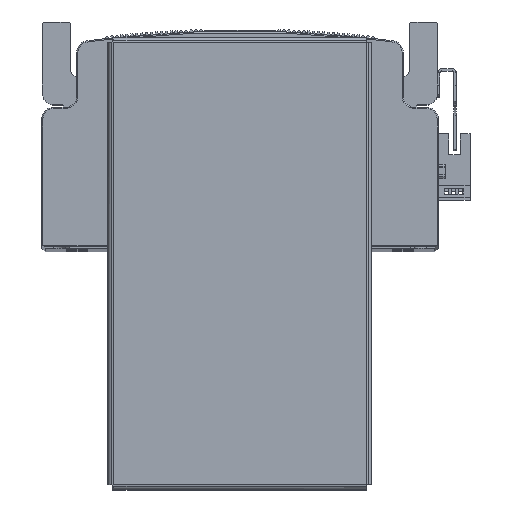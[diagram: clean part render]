
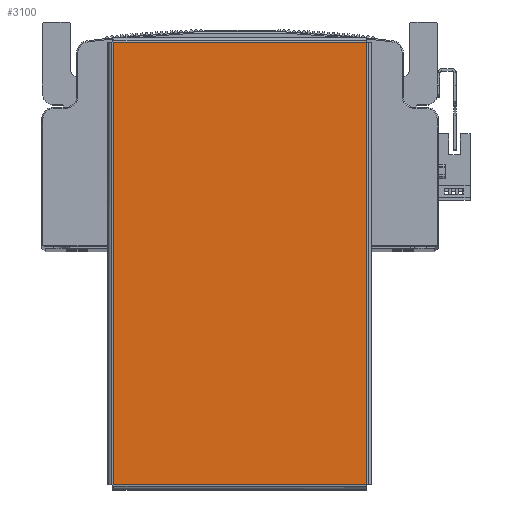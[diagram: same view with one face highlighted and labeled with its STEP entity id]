
A CAD part, top view. The second image highlights one B-rep face of the part: STEP entity #3100.
In plain terms, the highlighted planar face has unit normal (0, 0, 1) as drawn and (0, -1, 0) by its records, which use the part's own axes.
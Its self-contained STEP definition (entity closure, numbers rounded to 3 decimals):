
#1656 = VERTEX_POINT ( 'NONE', #71240 ) ;
#1666 = VERTEX_POINT ( 'NONE', #71167 ) ;
#1706 = VERTEX_POINT ( 'NONE', #71342 ) ;
#1749 = VERTEX_POINT ( 'NONE', #70429 ) ;
#3100 = ADVANCED_FACE ( 'NONE', ( #47380 ), #66739, .F. ) ;
#4457 = VECTOR ( 'NONE', #29269, 1000. ) ;
#4474 = LINE ( 'NONE', #29249, #4518 ) ;
#4478 = LINE ( 'NONE', #29281, #4493 ) ;
#4493 = VECTOR ( 'NONE', #29272, 1000. ) ;
#4511 = LINE ( 'NONE', #29250, #4457 ) ;
#4518 = VECTOR ( 'NONE', #29245, 1000. ) ;
#4559 = VECTOR ( 'NONE', #5857, 1000. ) ;
#4566 = LINE ( 'NONE', #5847, #4559 ) ;
#5847 = CARTESIAN_POINT ( 'NONE',  ( -94.763, -1.5, 54.393 ) ) ;
#5857 = DIRECTION ( 'NONE',  ( 0., 0., -1. ) ) ;
#19821 = ORIENTED_EDGE ( 'NONE', *, *, #40029, .T. ) ;
#19837 = ORIENTED_EDGE ( 'NONE', *, *, #40025, .T. ) ;
#19901 = ORIENTED_EDGE ( 'NONE', *, *, #40023, .T. ) ;
#19908 = ORIENTED_EDGE ( 'NONE', *, *, #40177, .T. ) ;
#29245 = DIRECTION ( 'NONE',  ( 1., 0., 0. ) ) ;
#29249 = CARTESIAN_POINT ( 'NONE',  ( -94.793, -1.5, -54.363 ) ) ;
#29250 = CARTESIAN_POINT ( 'NONE',  ( 94.793, -1.5, 54.363 ) ) ;
#29269 = DIRECTION ( 'NONE',  ( -1., 0., 0. ) ) ;
#29272 = DIRECTION ( 'NONE',  ( 0., 0., 1. ) ) ;
#29281 = CARTESIAN_POINT ( 'NONE',  ( 94.763, -1.5, -54.393 ) ) ;
#37004 = EDGE_LOOP ( 'NONE', ( #19901, #19908, #19837, #19821 ) ) ;
#40023 = EDGE_CURVE ( 'NONE', #1706, #1666, #4511, .T. ) ;
#40025 = EDGE_CURVE ( 'NONE', #1656, #1749, #4474, .T. ) ;
#40029 = EDGE_CURVE ( 'NONE', #1749, #1706, #4478, .T. ) ;
#40177 = EDGE_CURVE ( 'NONE', #1666, #1656, #4566, .T. ) ;
#47380 = FACE_OUTER_BOUND ( 'NONE', #37004, .T. ) ;
#50030 = AXIS2_PLACEMENT_3D ( 'NONE', #66764, #66753, #66737 ) ;
#66737 = DIRECTION ( 'NONE',  ( 0., 0., 1. ) ) ;
#66739 = PLANE ( 'NONE',  #50030 ) ;
#66753 = DIRECTION ( 'NONE',  ( 0., 1., 0. ) ) ;
#66764 = CARTESIAN_POINT ( 'NONE',  ( 0., -1.5, 0. ) ) ;
#70429 = CARTESIAN_POINT ( 'NONE',  ( 94.763, -1.5, -54.363 ) ) ;
#71167 = CARTESIAN_POINT ( 'NONE',  ( -94.763, -1.5, 54.363 ) ) ;
#71240 = CARTESIAN_POINT ( 'NONE',  ( -94.763, -1.5, -54.363 ) ) ;
#71342 = CARTESIAN_POINT ( 'NONE',  ( 94.763, -1.5, 54.363 ) ) ;
